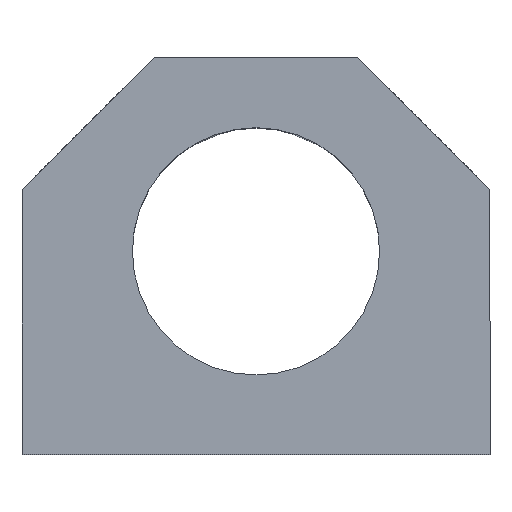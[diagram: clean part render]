
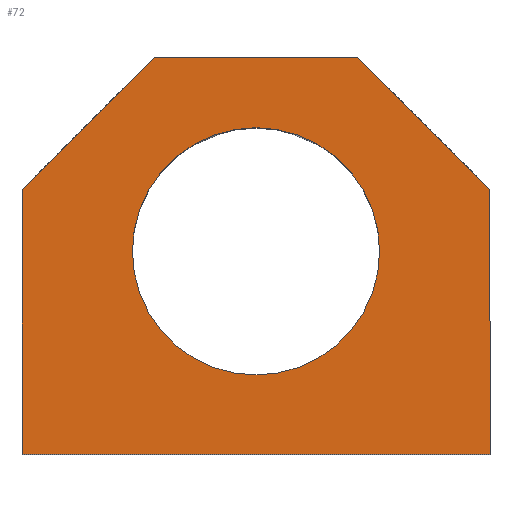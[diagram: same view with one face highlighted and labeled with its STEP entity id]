
A CAD part, top view. The second image highlights one B-rep face of the part: STEP entity #72.
In plain terms, the highlighted planar face has unit normal (0, 0, 1).
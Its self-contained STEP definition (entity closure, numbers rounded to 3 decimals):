
#3 = VERTEX_POINT ( 'NONE', #814 ) ;
#6 = ORIENTED_EDGE ( 'NONE', *, *, #871, .T. ) ;
#15 = DIRECTION ( 'NONE',  ( 1., 0., 0. ) ) ;
#17 = VECTOR ( 'NONE', #859, 1000. ) ;
#36 = LINE ( 'NONE', #501, #301 ) ;
#43 = EDGE_CURVE ( 'NONE', #784, #619, #605, .T. ) ;
#52 = ORIENTED_EDGE ( 'NONE', *, *, #43, .T. ) ;
#72 = ADVANCED_FACE ( 'NONE', ( #338, #464 ), #610, .T. ) ;
#86 = VERTEX_POINT ( 'NONE', #235 ) ;
#95 = CARTESIAN_POINT ( 'NONE',  ( -26.5, -22.5, 15. ) ) ;
#96 = DIRECTION ( 'NONE',  ( 1., 0., 0. ) ) ;
#107 = LINE ( 'NONE', #162, #138 ) ;
#116 = LINE ( 'NONE', #245, #659 ) ;
#121 = ORIENTED_EDGE ( 'NONE', *, *, #279, .T. ) ;
#126 = CARTESIAN_POINT ( 'NONE',  ( -17., 17., 15. ) ) ;
#130 = EDGE_LOOP ( 'NONE', ( #586, #581 ) ) ;
#138 = VECTOR ( 'NONE', #679, 1000. ) ;
#150 = EDGE_LOOP ( 'NONE', ( #249, #868, #536, #121, #6, #52 ) ) ;
#162 = CARTESIAN_POINT ( 'NONE',  ( 17., 17., 15. ) ) ;
#166 = CARTESIAN_POINT ( 'NONE',  ( -26.5, 22.5, 15. ) ) ;
#185 = EDGE_CURVE ( 'NONE', #3, #745, #754, .T. ) ;
#208 = VERTEX_POINT ( 'NONE', #230 ) ;
#224 = AXIS2_PLACEMENT_3D ( 'NONE', #362, #424, #298 ) ;
#230 = CARTESIAN_POINT ( 'NONE',  ( 26.5, 7.5, 15. ) ) ;
#235 = CARTESIAN_POINT ( 'NONE',  ( -11.5, 22.5, 15. ) ) ;
#237 = DIRECTION ( 'NONE',  ( 0., 0., 1. ) ) ;
#239 = DIRECTION ( 'NONE',  ( 0., -1., 0. ) ) ;
#245 = CARTESIAN_POINT ( 'NONE',  ( 26.5, 22.5, 15. ) ) ;
#249 = ORIENTED_EDGE ( 'NONE', *, *, #749, .F. ) ;
#266 = VECTOR ( 'NONE', #96, 1000. ) ;
#278 = DIRECTION ( 'NONE',  ( 1., 0., 0. ) ) ;
#279 = EDGE_CURVE ( 'NONE', #86, #510, #577, .T. ) ;
#296 = CARTESIAN_POINT ( 'NONE',  ( 26.5, -22.5, 15. ) ) ;
#298 = DIRECTION ( 'NONE',  ( 1., 0., 0. ) ) ;
#301 = VECTOR ( 'NONE', #450, 1000. ) ;
#323 = CARTESIAN_POINT ( 'NONE',  ( 0., 0.5, 15. ) ) ;
#338 = FACE_BOUND ( 'NONE', #130, .T. ) ;
#352 = AXIS2_PLACEMENT_3D ( 'NONE', #601, #804, #278 ) ;
#358 = EDGE_CURVE ( 'NONE', #86, #714, #368, .T. ) ;
#362 = CARTESIAN_POINT ( 'NONE',  ( 0., 0.5, 15. ) ) ;
#368 = LINE ( 'NONE', #166, #266 ) ;
#380 = CARTESIAN_POINT ( 'NONE',  ( 14., 0.5, 15. ) ) ;
#424 = DIRECTION ( 'NONE',  ( 0., 0., 1. ) ) ;
#441 = CARTESIAN_POINT ( 'NONE',  ( -26.5, -22.5, 15. ) ) ;
#448 = CARTESIAN_POINT ( 'NONE',  ( 11.5, 22.5, 15. ) ) ;
#450 = DIRECTION ( 'NONE',  ( 0., -1., 0. ) ) ;
#462 = AXIS2_PLACEMENT_3D ( 'NONE', #323, #237, #864 ) ;
#464 = FACE_OUTER_BOUND ( 'NONE', #150, .T. ) ;
#489 = CIRCLE ( 'NONE', #462, 14. ) ;
#501 = CARTESIAN_POINT ( 'NONE',  ( -26.5, 22.5, 15. ) ) ;
#510 = VERTEX_POINT ( 'NONE', #521 ) ;
#521 = CARTESIAN_POINT ( 'NONE',  ( -26.5, 7.5, 15. ) ) ;
#536 = ORIENTED_EDGE ( 'NONE', *, *, #358, .F. ) ;
#577 = LINE ( 'NONE', #126, #17 ) ;
#578 = VECTOR ( 'NONE', #15, 1000. ) ;
#581 = ORIENTED_EDGE ( 'NONE', *, *, #185, .F. ) ;
#586 = ORIENTED_EDGE ( 'NONE', *, *, #588, .F. ) ;
#588 = EDGE_CURVE ( 'NONE', #745, #3, #489, .T. ) ;
#601 = CARTESIAN_POINT ( 'NONE',  ( 0., 0., 15. ) ) ;
#605 = LINE ( 'NONE', #95, #578 ) ;
#610 = PLANE ( 'NONE',  #352 ) ;
#615 = EDGE_CURVE ( 'NONE', #208, #714, #107, .T. ) ;
#619 = VERTEX_POINT ( 'NONE', #296 ) ;
#659 = VECTOR ( 'NONE', #239, 1000. ) ;
#679 = DIRECTION ( 'NONE',  ( -0.707, 0.707, 0. ) ) ;
#714 = VERTEX_POINT ( 'NONE', #448 ) ;
#745 = VERTEX_POINT ( 'NONE', #380 ) ;
#749 = EDGE_CURVE ( 'NONE', #208, #619, #116, .T. ) ;
#754 = CIRCLE ( 'NONE', #224, 14. ) ;
#784 = VERTEX_POINT ( 'NONE', #441 ) ;
#804 = DIRECTION ( 'NONE',  ( 0., 0., 1. ) ) ;
#814 = CARTESIAN_POINT ( 'NONE',  ( -14., 0.5, 15. ) ) ;
#859 = DIRECTION ( 'NONE',  ( -0.707, -0.707, 0. ) ) ;
#864 = DIRECTION ( 'NONE',  ( 1., 0., 0. ) ) ;
#868 = ORIENTED_EDGE ( 'NONE', *, *, #615, .T. ) ;
#871 = EDGE_CURVE ( 'NONE', #510, #784, #36, .T. ) ;
